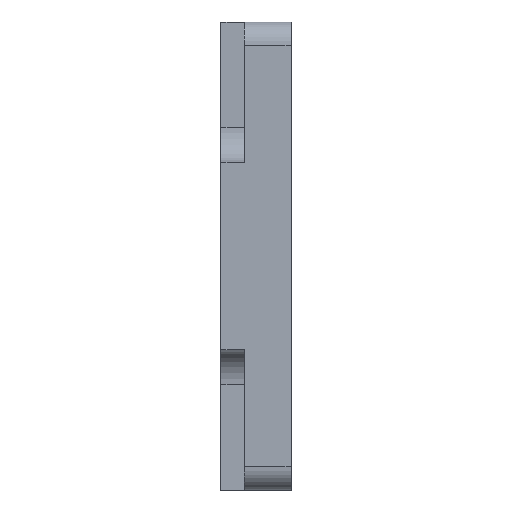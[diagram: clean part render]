
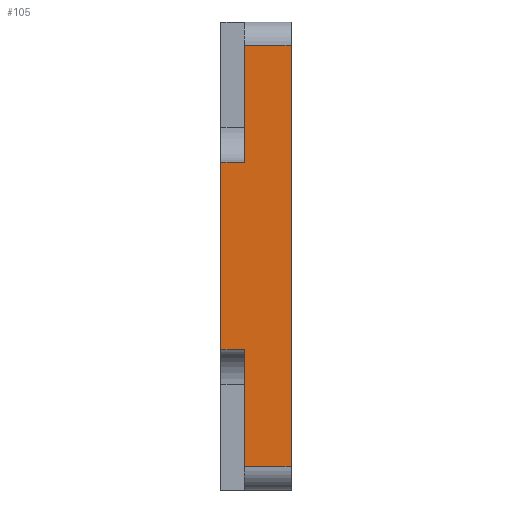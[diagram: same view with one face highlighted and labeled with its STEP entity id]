
A CAD part, left-side view. The second image highlights one B-rep face of the part: STEP entity #105.
In plain terms, the highlighted planar face has unit normal (-1, 0, 0).
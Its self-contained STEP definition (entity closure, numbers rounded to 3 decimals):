
#105 = ADVANCED_FACE( '', ( #266 ), #267, .T. );
#266 = FACE_OUTER_BOUND( '', #445, .T. );
#267 = PLANE( '', #446 );
#445 = EDGE_LOOP( '', ( #703, #704, #705, #706, #707, #708, #709, #710 ) );
#446 = AXIS2_PLACEMENT_3D( '', #711, #712, #713 );
#703 = ORIENTED_EDGE( '', *, *, #935, .T. );
#704 = ORIENTED_EDGE( '', *, *, #936, .T. );
#705 = ORIENTED_EDGE( '', *, *, #882, .T. );
#706 = ORIENTED_EDGE( '', *, *, #925, .F. );
#707 = ORIENTED_EDGE( '', *, *, #844, .F. );
#708 = ORIENTED_EDGE( '', *, *, #854, .T. );
#709 = ORIENTED_EDGE( '', *, *, #920, .F. );
#710 = ORIENTED_EDGE( '', *, *, #930, .T. );
#711 = CARTESIAN_POINT( '', ( -47.625, 9.525, 31.75 ) );
#712 = DIRECTION( '', ( -1., 0., 0. ) );
#713 = DIRECTION( '', ( 0., 0., 1. ) );
#844 = EDGE_CURVE( '', #974, #965, #976, .T. );
#854 = EDGE_CURVE( '', #974, #991, #992, .T. );
#882 = EDGE_CURVE( '', #1023, #1044, #1046, .T. );
#920 = EDGE_CURVE( '', #1106, #991, #1108, .T. );
#925 = EDGE_CURVE( '', #965, #1044, #1114, .T. );
#930 = EDGE_CURVE( '', #1106, #1118, #1120, .F. );
#935 = EDGE_CURVE( '', #1118, #1126, #1127, .T. );
#936 = EDGE_CURVE( '', #1126, #1023, #1128, .T. );
#965 = VERTEX_POINT( '', #1160 );
#974 = VERTEX_POINT( '', #1172 );
#976 = LINE( '', #1174, #1175 );
#991 = VERTEX_POINT( '', #1190 );
#992 = LINE( '', #1191, #1192 );
#1023 = VERTEX_POINT( '', #1224 );
#1044 = VERTEX_POINT( '', #1251 );
#1046 = LINE( '', #1254, #1255 );
#1106 = VERTEX_POINT( '', #1323 );
#1108 = LINE( '', #1325, #1326 );
#1114 = LINE( '', #1334, #1335 );
#1118 = VERTEX_POINT( '', #1339 );
#1120 = LINE( '', #1341, #1342 );
#1126 = VERTEX_POINT( '', #1350 );
#1127 = LINE( '', #1351, #1352 );
#1128 = LINE( '', #1353, #1354 );
#1160 = CARTESIAN_POINT( '', ( -47.625, 6.35, -12.7 ) );
#1172 = CARTESIAN_POINT( '', ( -47.625, 6.35, -28.575 ) );
#1174 = CARTESIAN_POINT( '', ( -47.625, 6.35, -12.7 ) );
#1175 = VECTOR( '', #1400, 1000. );
#1190 = CARTESIAN_POINT( '', ( -47.625, 0., -28.575 ) );
#1191 = CARTESIAN_POINT( '', ( -47.625, 9.525, -28.575 ) );
#1192 = VECTOR( '', #1416, 1000. );
#1224 = CARTESIAN_POINT( '', ( -47.625, 9.525, 12.7 ) );
#1251 = CARTESIAN_POINT( '', ( -47.625, 9.525, -12.7 ) );
#1254 = CARTESIAN_POINT( '', ( -47.625, 9.525, 31.75 ) );
#1255 = VECTOR( '', #1479, 1000. );
#1323 = CARTESIAN_POINT( '', ( -47.625, 0., 28.575 ) );
#1325 = CARTESIAN_POINT( '', ( -47.625, 0., 31.75 ) );
#1326 = VECTOR( '', #1545, 1000. );
#1334 = CARTESIAN_POINT( '', ( -47.625, 6.35, -12.7 ) );
#1335 = VECTOR( '', #1551, 1000. );
#1339 = CARTESIAN_POINT( '', ( -47.625, 6.35, 28.575 ) );
#1341 = CARTESIAN_POINT( '', ( -47.625, 9.525, 28.575 ) );
#1342 = VECTOR( '', #1555, 1000. );
#1350 = CARTESIAN_POINT( '', ( -47.625, 6.35, 12.7 ) );
#1351 = CARTESIAN_POINT( '', ( -47.625, 6.35, 31.75 ) );
#1352 = VECTOR( '', #1558, 1000. );
#1353 = CARTESIAN_POINT( '', ( -47.625, 6.35, 12.7 ) );
#1354 = VECTOR( '', #1559, 1000. );
#1400 = DIRECTION( '', ( 0., 0., 1. ) );
#1416 = DIRECTION( '', ( 0., -1., 0. ) );
#1479 = DIRECTION( '', ( 0., 0., -1. ) );
#1545 = DIRECTION( '', ( 0., 0., -1. ) );
#1551 = DIRECTION( '', ( 0., 1., 0. ) );
#1555 = DIRECTION( '', ( 0., -1., 0. ) );
#1558 = DIRECTION( '', ( 0., 0., -1. ) );
#1559 = DIRECTION( '', ( 0., 1., 0. ) );
